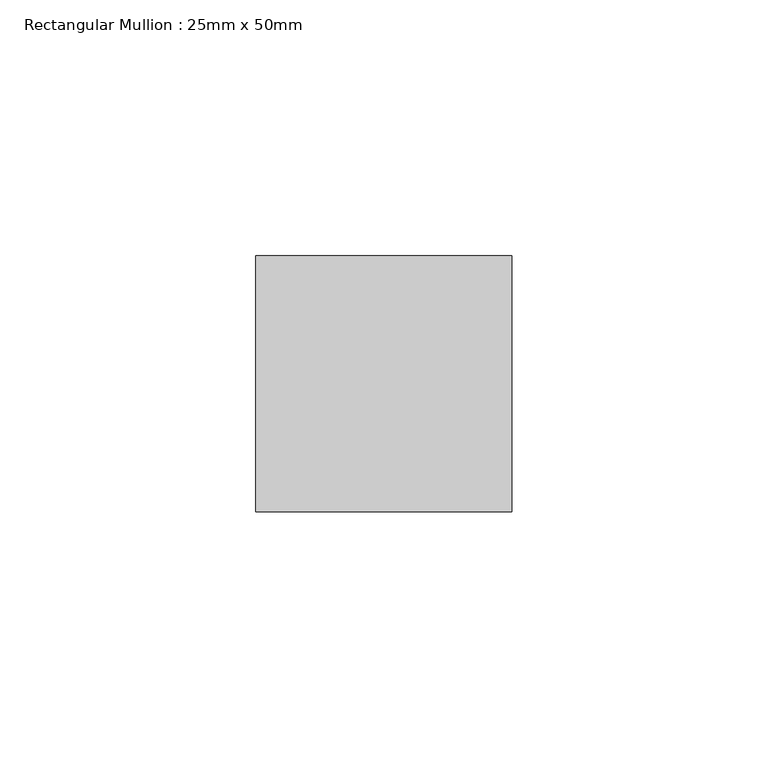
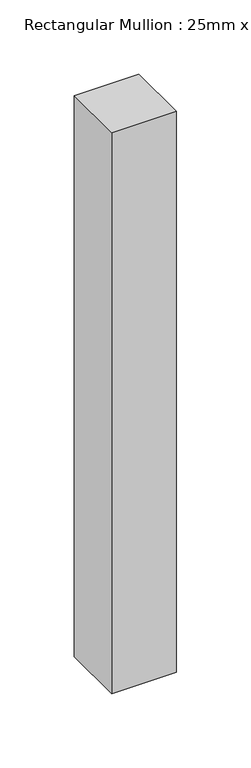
"""IFC4 building model written with IfcOpenShell, lengths in millimetres: member geometry, Rectangular Mullion : 25mm x 50mm."""

from ifc_helpers import new_model, si_unit, frame, origin, place, context, project, spatial, polyline, outline, extrude, source, transform, mapped, element, save


def rectangular_mullion_25mm_x_50mm_f7bffd85(model_context):
    return source(origin(), model_context, "Body", "SweptSolid", [
        extrude(outline(polyline([(25.0, 25.0), (25.0, -25.0), (-25.0, -25.0), (-25.0, 25.0), (25.0, 25.0)])), frame((0.0, 0.0, -460.0), z_axis=(0.0, 0.0, 1.0), x_axis=(1.0, 0.0, 0.0)), (0.0, 0.0, 1.0), 460.0),
    ])


if __name__ == "__main__":
    model = new_model("IFC4")
    model_context = context("Model", 3, world=origin())
    ifc_project = project(units=[si_unit("LENGTHUNIT", "METRE", prefix="MILLI")], contexts=[model_context])
    site = spatial("IfcSite", under=ifc_project)
    building = spatial("IfcBuilding", under=site)
    placement = place(None, origin())
    rectangular_mullion_25mm_x_50mm_shape = rectangular_mullion_25mm_x_50mm_f7bffd85(model_context)
    element("IfcMember", 1, ObjectType="Rectangular Mullion : 25mm x 50mm", at=placement, inside=building, context=model_context, shape_type="MappedRepresentation", body=[
        mapped(rectangular_mullion_25mm_x_50mm_shape, transform((0.0, 0.0, 0.0), x_axis=(1.0, 0.0, 0.0), y_axis=(0.0, 1.0, 0.0), z_axis=(0.0, 0.0, 1.0))),
    ])
    save(model, "model.ifc")
